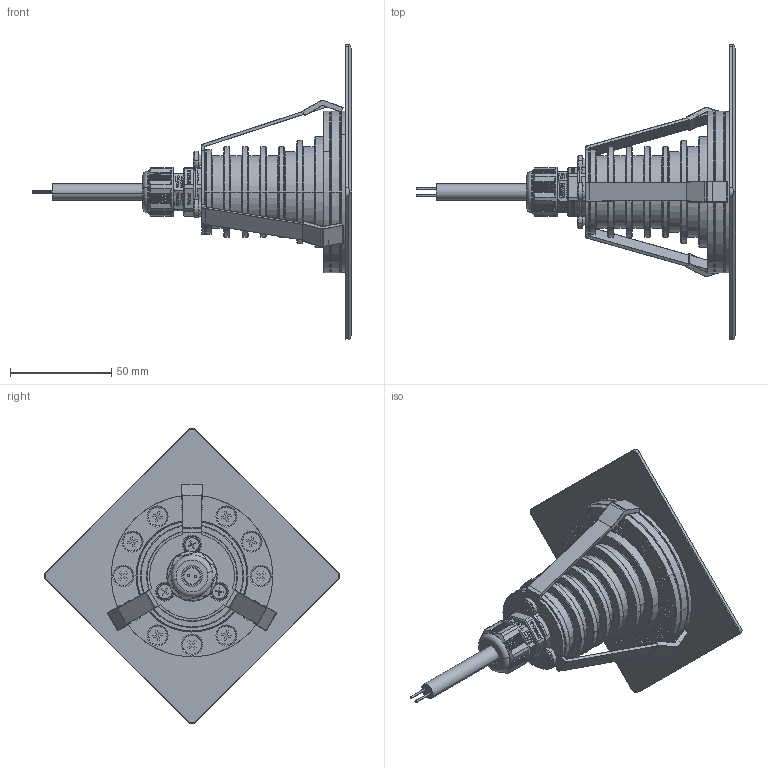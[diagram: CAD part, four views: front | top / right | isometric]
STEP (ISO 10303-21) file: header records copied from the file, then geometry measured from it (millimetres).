
FILE_DESCRIPTION (( 'STEP AP203' ), '1' );
FILE_NAME ('GROUND-STANDARD-PREMIUM-SQ2.STEP', '2023-03-17T06:06:09', ( '' ), ( '' ), 'SwSTEP 2.0', 'SolidWorks 2017', '' );
FILE_SCHEMA (( 'CONFIG_CONTROL_DESIGN' ));
Length unit declared in the file: millimetre
Products named in the file (23): DK160302GB24_1; DK140202DD02_5; DK160302GB23_1; DK160302GB25_1; DK160302DD34_1; DK160302GB26_1; DK160302GB12_1; GROUND-STANDARD-PREMIUM-SQ2; CableGlandM16x1,5_1; CableGlandTopM16x1,5_1; DK160302GB07_1; DK140202DD06_5; DK140202DD14_2; DK160302MZ50_1; SCREW__M5x12_ISO7046_1_1; DK160302DD36; M1610B_6; DK160302GB04_1; izolacja_1; gla-35_asm_5; PRZEWOD 2_6; screwM4x6_DIN7985_1
Assembly tree (39 placements, depth 3):
  GROUND-STANDARD-PREMIUM-SQ2
    DK160302GB23_1
    DK160302DD36
    DK160302GB12_1
      DK160302GB07_1
      izolacja_1  x3
    DK140202DD06_5
    DK140202DD02_5
    DK160302MZ50_1
      DK160302DD34_1
    CableGlandM16x1,5_1
      CableGlandM16x1,5_1
      CableGlandTopM16x1,5_1
    SCREW__M5x12_ISO7046_1_1  x12
    screwM4x6_DIN7985_1  x3
    DK160302GB24_1
    DK160302GB04_1
    DK140202DD14_2  x3
    DK160302GB25_1
    DK160302GB26_1
    M1610B_6
    PRZEWOD 2_6
    gla-35_asm_5
Bounding box: 158.15 x 146.01 x 146.01 mm (x, y, z)
Volume: 145635.4 mm3; surface area: 116862.3 mm2
Topology: 35 solids, 66 shells, 2120 faces, 5506 edges, 3573 vertices
Faces by surface type: plane 1069, bspline 438, cylinder 393, cone 212, torus 8
Entity records: 70488 total; most frequent: CARTESIAN_POINT 26124, ORIENTED_EDGE 9276, DIRECTION 7236, EDGE_CURVE 4672, VERTEX_POINT 3046, VECTOR 2472, LINE 2472, AXIS2_PLACEMENT_3D 2382
